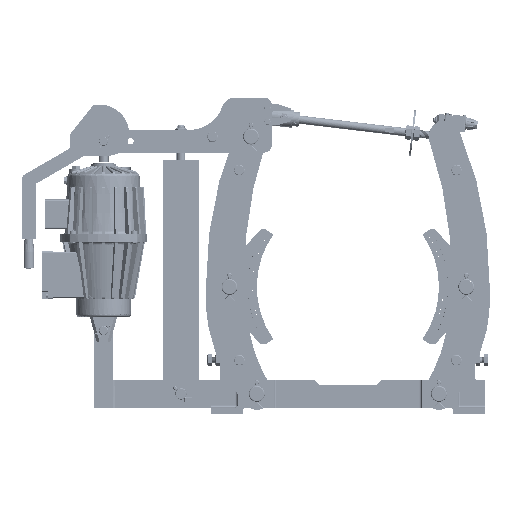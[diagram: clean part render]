
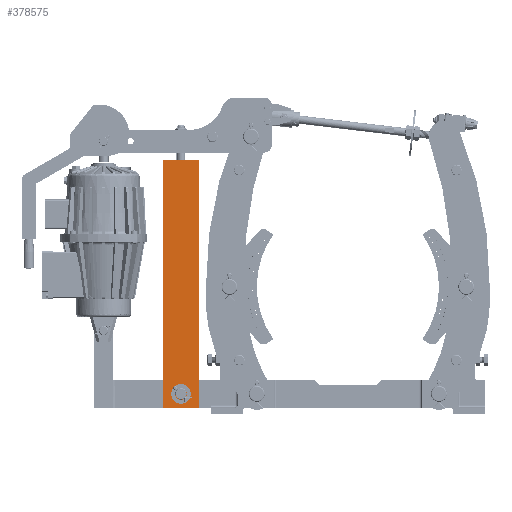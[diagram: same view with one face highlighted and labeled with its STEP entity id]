
A CAD part, left-side view. The second image highlights one B-rep face of the part: STEP entity #378575.
In plain terms, the highlighted planar face has unit normal (-1, 0, 0).
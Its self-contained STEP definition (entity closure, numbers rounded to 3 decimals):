
#378414=DIRECTION('',(0.,-1.,0.));
#378415=VECTOR('',#378414,80.);
#378416=CARTESIAN_POINT('',(-115.,706.503,559.));
#378417=LINE('',#378416,#378415);
#378421=DIRECTION('',(0.,0.,-1.));
#378422=VECTOR('',#378421,544.);
#378423=CARTESIAN_POINT('',(-115.,626.503,559.));
#378424=LINE('',#378423,#378422);
#378428=DIRECTION('',(0.,1.,0.));
#378429=VECTOR('',#378428,80.);
#378430=CARTESIAN_POINT('',(-115.,626.503,15.));
#378431=LINE('',#378430,#378429);
#378435=DIRECTION('',(0.,0.,1.));
#378436=VECTOR('',#378435,544.);
#378437=CARTESIAN_POINT('',(-115.,706.503,15.));
#378438=LINE('',#378437,#378436);
#378442=CARTESIAN_POINT('',(-115.,666.503,57.5));
#378443=CARTESIAN_POINT('',(-115.,666.889,57.5));
#378444=CARTESIAN_POINT('',(-115.,667.658,57.464));
#378445=CARTESIAN_POINT('',(-115.,668.803,57.305));
#378446=CARTESIAN_POINT('',(-115.,669.929,57.04));
#378447=CARTESIAN_POINT('',(-115.,671.024,56.673));
#378448=CARTESIAN_POINT('',(-115.,672.083,56.205));
#378449=CARTESIAN_POINT('',(-115.,673.094,55.642));
#378450=CARTESIAN_POINT('',(-115.,674.048,54.988));
#378451=CARTESIAN_POINT('',(-115.,674.938,54.249));
#378452=CARTESIAN_POINT('',(-115.,675.755,53.431));
#378453=CARTESIAN_POINT('',(-115.,676.493,52.542));
#378454=CARTESIAN_POINT('',(-115.,677.147,51.588));
#378455=CARTESIAN_POINT('',(-115.,677.709,50.578));
#378456=CARTESIAN_POINT('',(-115.,678.176,49.52));
#378457=CARTESIAN_POINT('',(-115.,678.543,48.425));
#378458=CARTESIAN_POINT('',(-115.,678.807,47.301));
#378459=CARTESIAN_POINT('',(-115.,678.967,46.155));
#378460=CARTESIAN_POINT('',(-115.,679.003,45.386));
#378461=CARTESIAN_POINT('',(-115.,679.003,45.));
#378466=CARTESIAN_POINT('',(-115.,679.003,45.));
#378467=CARTESIAN_POINT('',(-115.,679.003,44.614));
#378468=CARTESIAN_POINT('',(-115.,678.967,43.845));
#378469=CARTESIAN_POINT('',(-115.,678.807,42.699));
#378470=CARTESIAN_POINT('',(-115.,678.543,41.574));
#378471=CARTESIAN_POINT('',(-115.,678.175,40.478));
#378472=CARTESIAN_POINT('',(-115.,677.708,39.419));
#378473=CARTESIAN_POINT('',(-115.,677.145,38.409));
#378474=CARTESIAN_POINT('',(-115.,676.491,37.454));
#378475=CARTESIAN_POINT('',(-115.,675.752,36.565));
#378476=CARTESIAN_POINT('',(-115.,674.934,35.748));
#378477=CARTESIAN_POINT('',(-115.,674.045,35.009));
#378478=CARTESIAN_POINT('',(-115.,673.091,34.356));
#378479=CARTESIAN_POINT('',(-115.,672.081,33.794));
#378480=CARTESIAN_POINT('',(-115.,671.023,33.327));
#378481=CARTESIAN_POINT('',(-115.,669.928,32.96));
#378482=CARTESIAN_POINT('',(-115.,668.804,32.695));
#378483=CARTESIAN_POINT('',(-115.,667.658,32.536));
#378484=CARTESIAN_POINT('',(-115.,666.889,32.5));
#378485=CARTESIAN_POINT('',(-115.,666.503,32.5));
#378490=CARTESIAN_POINT('',(-115.,666.503,32.5));
#378491=CARTESIAN_POINT('',(-115.,666.117,32.5));
#378492=CARTESIAN_POINT('',(-115.,665.348,32.536));
#378493=CARTESIAN_POINT('',(-115.,664.202,32.695));
#378494=CARTESIAN_POINT('',(-115.,663.077,32.96));
#378495=CARTESIAN_POINT('',(-115.,661.981,33.327));
#378496=CARTESIAN_POINT('',(-115.,660.922,33.795));
#378497=CARTESIAN_POINT('',(-115.,659.911,34.358));
#378498=CARTESIAN_POINT('',(-115.,658.957,35.012));
#378499=CARTESIAN_POINT('',(-115.,658.068,35.751));
#378500=CARTESIAN_POINT('',(-115.,657.25,36.569));
#378501=CARTESIAN_POINT('',(-115.,656.512,37.458));
#378502=CARTESIAN_POINT('',(-115.,655.859,38.412));
#378503=CARTESIAN_POINT('',(-115.,655.296,39.422));
#378504=CARTESIAN_POINT('',(-115.,654.83,40.48));
#378505=CARTESIAN_POINT('',(-115.,654.463,41.575));
#378506=CARTESIAN_POINT('',(-115.,654.198,42.699));
#378507=CARTESIAN_POINT('',(-115.,654.038,43.845));
#378508=CARTESIAN_POINT('',(-115.,654.003,44.614));
#378509=CARTESIAN_POINT('',(-115.,654.003,45.));
#378514=CARTESIAN_POINT('',(-115.,654.003,45.));
#378515=CARTESIAN_POINT('',(-115.,654.003,45.386));
#378516=CARTESIAN_POINT('',(-115.,654.038,46.155));
#378517=CARTESIAN_POINT('',(-115.,654.198,47.301));
#378518=CARTESIAN_POINT('',(-115.,654.463,48.426));
#378519=CARTESIAN_POINT('',(-115.,654.83,49.522));
#378520=CARTESIAN_POINT('',(-115.,655.298,50.581));
#378521=CARTESIAN_POINT('',(-115.,655.861,51.591));
#378522=CARTESIAN_POINT('',(-115.,656.515,52.546));
#378523=CARTESIAN_POINT('',(-115.,657.254,53.435));
#378524=CARTESIAN_POINT('',(-115.,658.071,54.252));
#378525=CARTESIAN_POINT('',(-115.,658.961,54.991));
#378526=CARTESIAN_POINT('',(-115.,659.915,55.644));
#378527=CARTESIAN_POINT('',(-115.,660.925,56.206));
#378528=CARTESIAN_POINT('',(-115.,661.983,56.673));
#378529=CARTESIAN_POINT('',(-115.,663.077,57.04));
#378530=CARTESIAN_POINT('',(-115.,664.202,57.305));
#378531=CARTESIAN_POINT('',(-115.,665.347,57.464));
#378532=CARTESIAN_POINT('',(-115.,666.116,57.5));
#378533=CARTESIAN_POINT('',(-115.,666.503,57.5));
#378538=CARTESIAN_POINT('',(-115.,706.503,559.));
#378539=CARTESIAN_POINT('',(-115.,626.503,559.));
#378540=VERTEX_POINT('',#378538);
#378541=VERTEX_POINT('',#378539);
#378542=CARTESIAN_POINT('',(-115.,626.503,15.));
#378543=VERTEX_POINT('',#378542);
#378544=CARTESIAN_POINT('',(-115.,706.503,15.));
#378545=VERTEX_POINT('',#378544);
#378546=VERTEX_POINT('',#378442);
#378547=VERTEX_POINT('',#378461);
#378548=VERTEX_POINT('',#378485);
#378549=VERTEX_POINT('',#378509);
#378550=CARTESIAN_POINT('',(-115.,666.503,287.));
#378551=DIRECTION('',(1.,0.,0.));
#378552=DIRECTION('',(0.,0.,-1.));
#378553=AXIS2_PLACEMENT_3D('',#378550,#378551,#378552);
#378554=PLANE('',#378553);
#378556=ORIENTED_EDGE('',*,*,#378555,.T.);
#378558=ORIENTED_EDGE('',*,*,#378557,.T.);
#378560=ORIENTED_EDGE('',*,*,#378559,.T.);
#378562=ORIENTED_EDGE('',*,*,#378561,.T.);
#378563=EDGE_LOOP('',(#378556,#378558,#378560,#378562));
#378564=FACE_OUTER_BOUND('',#378563,.F.);
#378566=ORIENTED_EDGE('',*,*,#378565,.T.);
#378568=ORIENTED_EDGE('',*,*,#378567,.T.);
#378570=ORIENTED_EDGE('',*,*,#378569,.T.);
#378572=ORIENTED_EDGE('',*,*,#378571,.T.);
#378573=EDGE_LOOP('',(#378566,#378568,#378570,#378572));
#378574=FACE_BOUND('',#378573,.F.);
#378575=ADVANCED_FACE('',(#378564,#378574),#378554,.F.);
#378462=B_SPLINE_CURVE_WITH_KNOTS('',3,(#378442,#378443,#378444,#378445,#378446,
#378447,#378448,#378449,#378450,#378451,#378452,#378453,#378454,#378455,#378456,
#378457,#378458,#378459,#378460,#378461),.UNSPECIFIED.,.F.,.F.,(4,1,1,1,1,1,1,1,
1,1,1,1,1,1,1,1,1,4),(0.,0.059,0.118,
0.176,0.235,0.294,0.353,
0.412,0.471,0.529,0.588,
0.647,0.706,0.765,0.824,
0.882,0.941,1.),.UNSPECIFIED.);
#378486=B_SPLINE_CURVE_WITH_KNOTS('',3,(#378466,#378467,#378468,#378469,#378470,
#378471,#378472,#378473,#378474,#378475,#378476,#378477,#378478,#378479,#378480,
#378481,#378482,#378483,#378484,#378485),.UNSPECIFIED.,.F.,.F.,(4,1,1,1,1,1,1,1,
1,1,1,1,1,1,1,1,1,4),(0.,0.059,0.118,
0.176,0.235,0.294,0.353,
0.412,0.471,0.529,0.588,
0.647,0.706,0.765,0.824,
0.882,0.941,1.),.UNSPECIFIED.);
#378510=B_SPLINE_CURVE_WITH_KNOTS('',3,(#378490,#378491,#378492,#378493,#378494,
#378495,#378496,#378497,#378498,#378499,#378500,#378501,#378502,#378503,#378504,
#378505,#378506,#378507,#378508,#378509),.UNSPECIFIED.,.F.,.F.,(4,1,1,1,1,1,1,1,
1,1,1,1,1,1,1,1,1,4),(0.,0.059,0.118,
0.176,0.235,0.294,0.353,
0.412,0.471,0.529,0.588,
0.647,0.706,0.765,0.824,
0.882,0.941,1.),.UNSPECIFIED.);
#378534=B_SPLINE_CURVE_WITH_KNOTS('',3,(#378514,#378515,#378516,#378517,#378518,
#378519,#378520,#378521,#378522,#378523,#378524,#378525,#378526,#378527,#378528,
#378529,#378530,#378531,#378532,#378533),.UNSPECIFIED.,.F.,.F.,(4,1,1,1,1,1,1,1,
1,1,1,1,1,1,1,1,1,4),(0.,0.059,0.118,
0.176,0.235,0.294,0.353,
0.412,0.471,0.529,0.588,
0.647,0.706,0.765,0.824,
0.882,0.941,1.),.UNSPECIFIED.);
#378555=EDGE_CURVE('',#378540,#378541,#378417,.T.);
#378557=EDGE_CURVE('',#378541,#378543,#378424,.T.);
#378559=EDGE_CURVE('',#378543,#378545,#378431,.T.);
#378561=EDGE_CURVE('',#378545,#378540,#378438,.T.);
#378565=EDGE_CURVE('',#378546,#378547,#378462,.T.);
#378567=EDGE_CURVE('',#378547,#378548,#378486,.T.);
#378569=EDGE_CURVE('',#378548,#378549,#378510,.T.);
#378571=EDGE_CURVE('',#378549,#378546,#378534,.T.);
